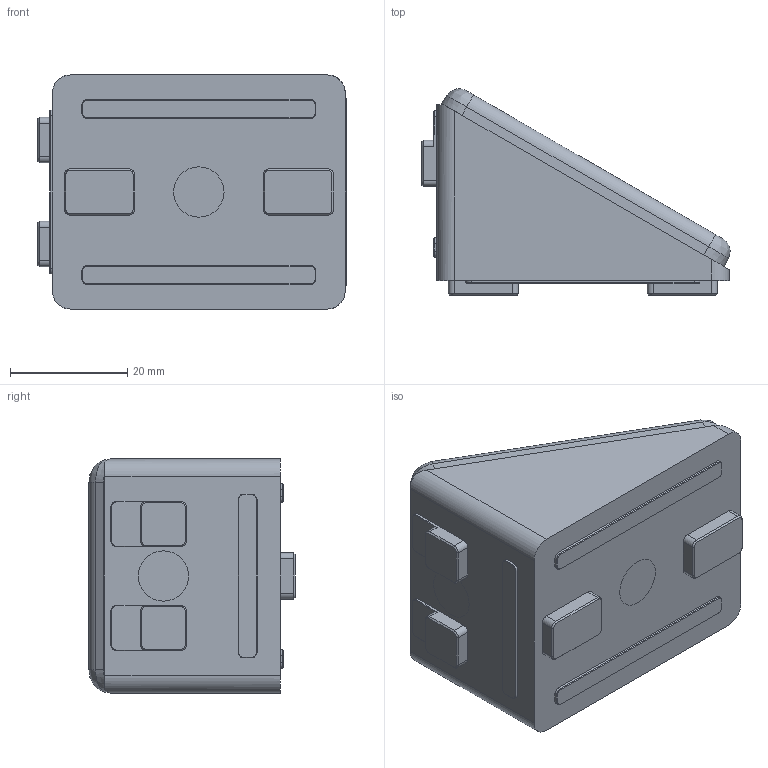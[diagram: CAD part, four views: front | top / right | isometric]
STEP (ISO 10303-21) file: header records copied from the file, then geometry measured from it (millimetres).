
FILE_DESCRIPTION(/* description */ (''),/* implementation_level */ '2;1');
FILE_NAME(/* name */ 'LA-6007-0575-A.stp',/* time_stamp */ '2015-01-28T11:09:49+00:00',/* author */ (''),/* organization */ (''),/* preprocessor_version */ 'ST-DEVELOPER v11',/* originating_system */ 'SIEMENS PLM Software NX 7.5',/* authorisation */ '');
FILE_SCHEMA (('AUTOMOTIVE_DESIGN { 1 0 10303 214 1 1 1 1 }'));
Length unit declared in the file: millimetre
Products named in the file (1): rt13982Avlah
Bounding box: 52.65 x 35.23 x 40 mm (x, y, z)
Volume: 41970.3 mm3; surface area: 8083.3 mm2
Topology: 1 solids, 1 shells, 187 faces, 492 edges, 327 vertices
Faces by surface type: plane 103, cone 40, cylinder 40, bspline 4
Entity records: 6413 total; most frequent: CARTESIAN_POINT 1565, ORIENTED_EDGE 980, DIRECTION 915, EDGE_CURVE 490, VERTEX_POINT 327, AXIS2_PLACEMENT_3D 318, LINE 279, VECTOR 279
